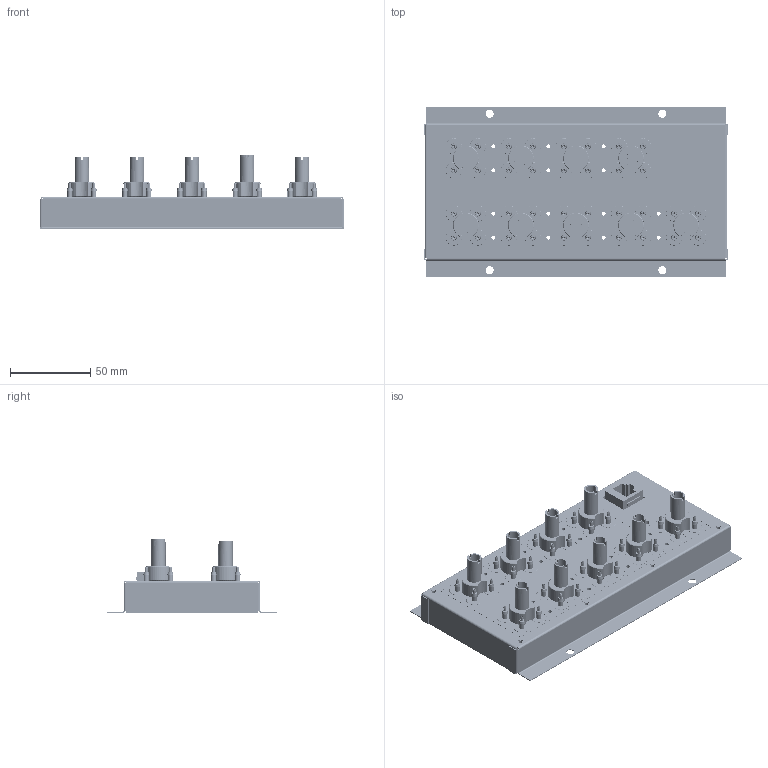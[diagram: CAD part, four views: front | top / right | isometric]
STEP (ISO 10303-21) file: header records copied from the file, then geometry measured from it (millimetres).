
FILE_DESCRIPTION (( 'STEP AP203' ), '1' );
FILE_NAME ('36-way_injector.STEP', '2024-05-15T16:31:51', ( '' ), ( '' ), 'SwSTEP 2.0', 'SolidWorks 2021', '' );
FILE_SCHEMA (( 'CONFIG_CONTROL_DESIGN' ));
Length unit declared in the file: millimetre
Products named in the file (1): 36-way_injector
Bounding box: 190.2 x 106.2 x 46.1 mm (x, y, z)
Volume: 163283.2 mm3; surface area: 145886.8 mm2
Topology: 108 solids, 108 shells, 3059 faces, 6688 edges, 4143 vertices
Faces by surface type: cylinder 1092, cone 916, plane 835, torus 216
Entity records: 85255 total; most frequent: DIRECTION 16552, CARTESIAN_POINT 14107, ORIENTED_EDGE 13376, AXIS2_PLACEMENT_3D 6858, EDGE_CURVE 6688, VERTEX_POINT 4143, CIRCLE 3798, EDGE_LOOP 3797
